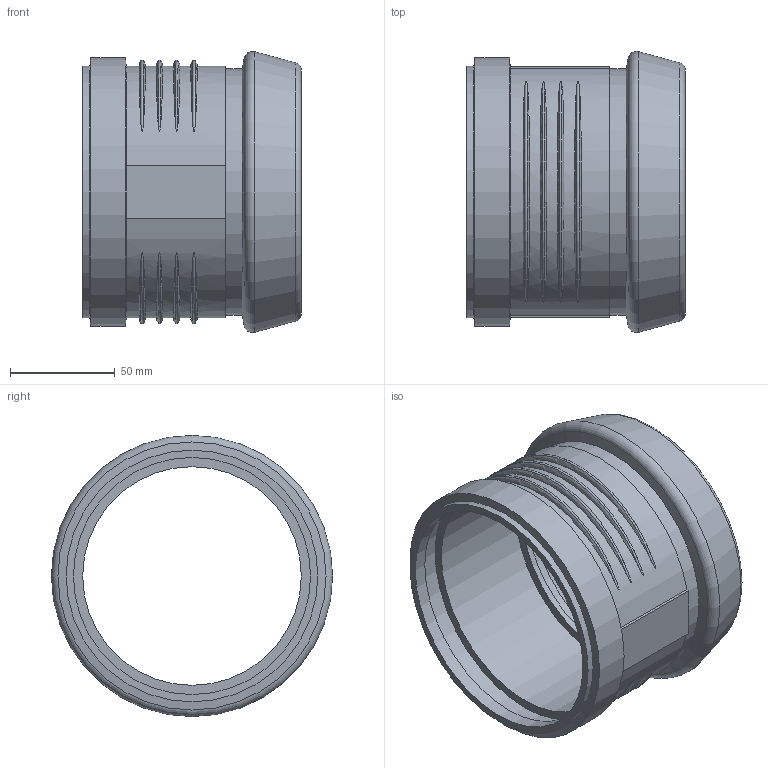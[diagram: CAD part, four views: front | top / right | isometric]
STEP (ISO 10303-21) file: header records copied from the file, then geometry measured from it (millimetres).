
FILE_DESCRIPTION(/* description */ (''),/* implementation_level */ '2;1');
FILE_NAME(/* name */ 'Z:\Geberit\Export\NewStep\390596.stp',/* time_stamp */ '2014-04-02T08:15:19+02:00',/* author */ ('Judith'),/* organization */ (''),/* preprocessor_version */ 'ST-DEVELOPER v15.2',/* originating_system */ 'Autodesk Inventor 2014',/* authorisation */ '');
FILE_SCHEMA (('AUTOMOTIVE_DESIGN { 1 0 10303 214 3 1 1 }'));
Length unit declared in the file: millimetre
Products named in the file (3): 861492; 861404; 390596
Bounding box: 104.4 x 134.38 x 134.38 mm (x, y, z)
Volume: 163901.5 mm3; surface area: 99863.7 mm2
Topology: 2 solids, 2 shells, 61 faces, 142 edges, 95 vertices
Faces by surface type: torus 29, plane 12, cylinder 11, cone 9
Full cylindrical faces by diameter (mm): 104.5 x1, 111.75 x2, 113.3 x2, 117.75 x1, 120.3 x1, 121.1 x1, 128.1 x1
Entity records: 2405 total; most frequent: CARTESIAN_POINT 1046, DIRECTION 242, ORIENTED_EDGE 236, EDGE_CURVE 118, AXIS2_PLACEMENT_3D 114, EDGE_LOOP 98, VERTEX_POINT 94, STYLED_ITEM 63
